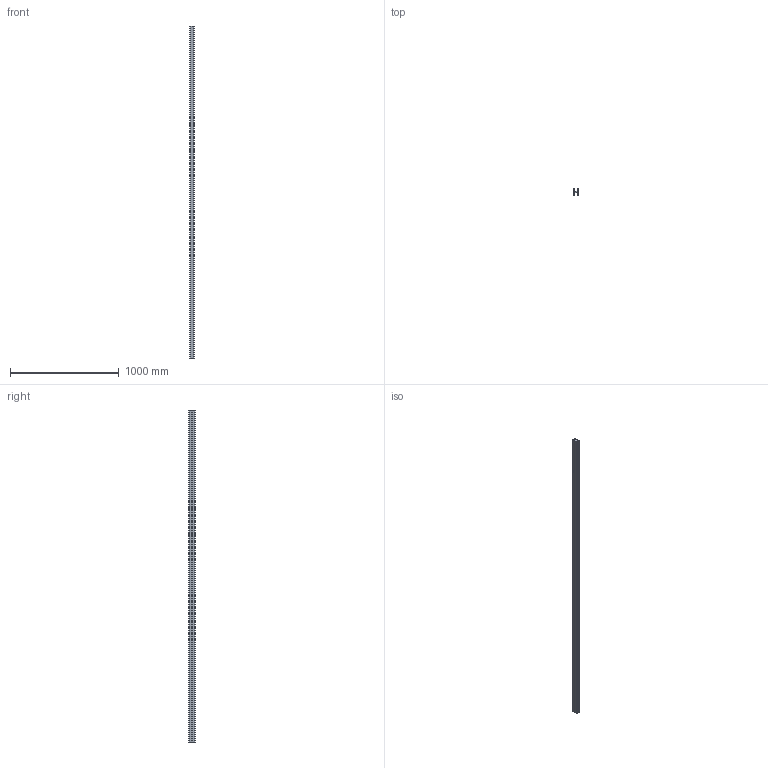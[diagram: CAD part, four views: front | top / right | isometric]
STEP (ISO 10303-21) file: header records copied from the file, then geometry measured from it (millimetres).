
FILE_DESCRIPTION(('TurboCAD Mac Pro'),'Build 980');
FILE_NAME('F20P-1100.stp',' ',(''),(''),'ACIS Interop','IMSI','TurboCAD Mac Pro BY IMSI, INCORPORATED');
FILE_SCHEMA(('automotive_design'));
Length unit declared in the file: inch
Products named in the file (1): 1
Bounding box: 38.1 x 57.15 x 3048 mm (x, y, z)
Volume: 2549055.3 mm3; surface area: 1007206.4 mm2
Topology: 1 solids, 1 shells, 58 faces, 168 edges, 112 vertices
Faces by surface type: bspline 34, plane 24
Entity records: 2600 total; most frequent: CARTESIAN_POINT 797, ORIENTED_EDGE 336, EDGE_CURVE 168, DIRECTION 166, VERTEX_POINT 112, LINE 100, VECTOR 100, B_SPLINE_CURVE_WITH_KNOTS 60
